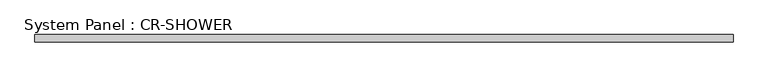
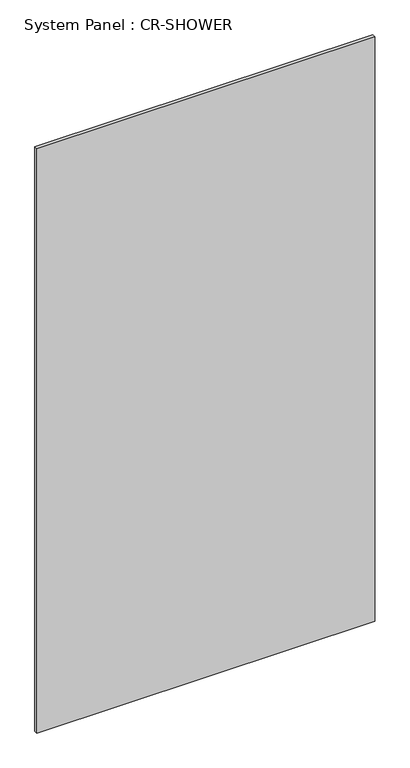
"""IFC4 building model written with IfcOpenShell, lengths in millimetres: plate geometry, System Panel : CR-SHOWER."""

from ifc_helpers import new_model, si_unit, origin, origin_with_axes, place, context, project, spatial, polyline, outline, extrude, source, transform, mapped, element, save


def system_panel_cr_shower_eca2249b(model_context):
    return source(origin(), model_context, "Body", "SweptSolid", [
        extrude(outline(polyline([(615.025, -0.05), (-615.025, -0.05), (-615.025, 12.45), (615.025, 12.45), (615.025, -0.05)])), origin_with_axes(), (0.0, 0.0, 1.0), 2250.0),
    ])


if __name__ == "__main__":
    model = new_model("IFC4")
    model_context = context("Model", 3, world=origin())
    ifc_project = project(units=[si_unit("LENGTHUNIT", "METRE", prefix="MILLI")], contexts=[model_context])
    site = spatial("IfcSite", under=ifc_project)
    building = spatial("IfcBuilding", under=site)
    placement = place(None, origin())
    system_panel_cr_shower_shape = system_panel_cr_shower_eca2249b(model_context)
    element("IfcPlate", 1, ObjectType="System Panel : CR-SHOWER", at=placement, inside=building, context=model_context, shape_type="MappedRepresentation", body=[
        mapped(system_panel_cr_shower_shape, transform((0.0, 0.0, 0.0), x_axis=(1.0, 0.0, 0.0), y_axis=(0.0, 1.0, 0.0), z_axis=(0.0, 0.0, 1.0))),
    ])
    save(model, "model.ifc")
